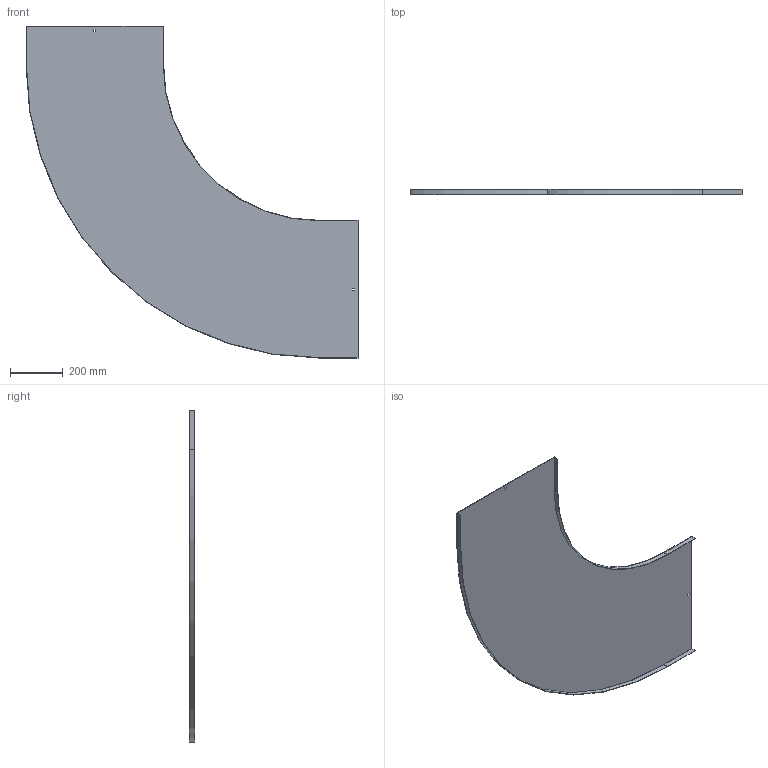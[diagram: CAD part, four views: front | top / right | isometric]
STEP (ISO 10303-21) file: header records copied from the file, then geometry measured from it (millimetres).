
FILE_DESCRIPTION (( 'STEP AP214' ), '1' );
FILE_NAME ('10N6P500.step', '2025-02-21T13:37:15', ( '' ), ( '' ), 'SwSTEP 2.0', 'SolidWorks 2023', '' );
FILE_SCHEMA (( 'AUTOMOTIVE_DESIGN' ));
Length unit declared in the file: millimetre
Products named in the file (1): 10N6P500
Bounding box: 1261.5 x 20 x 1261.5 mm (x, y, z)
Volume: 1373373.1 mm3; surface area: 1837842.6 mm2
Topology: 1 solids, 1 shells, 26 faces, 72 edges, 48 vertices
Faces by surface type: plane 22, cylinder 4
Entity records: 855 total; most frequent: CARTESIAN_POINT 147, ORIENTED_EDGE 144, DIRECTION 134, EDGE_CURVE 72, VECTOR 64, LINE 64, VERTEX_POINT 48, AXIS2_PLACEMENT_3D 35
